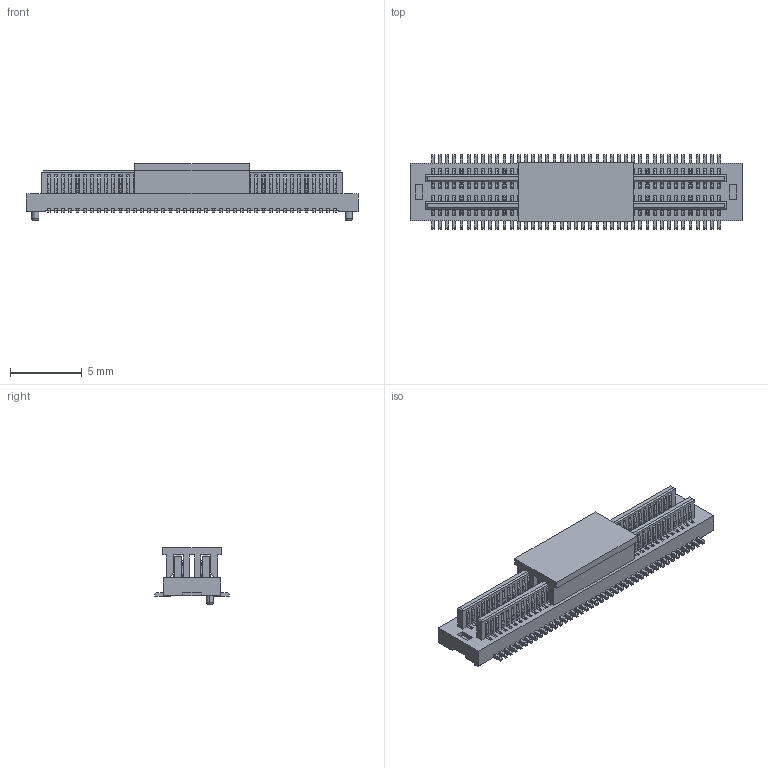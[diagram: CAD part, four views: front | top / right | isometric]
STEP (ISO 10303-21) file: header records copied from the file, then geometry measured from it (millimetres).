
FILE_DESCRIPTION(('CATIA V5 STEP Exchange'),'2;1');
FILE_NAME('F:\黄富鸿\板对板\PBB05\公座\H1.3\编带+盖\HC-PBB05-2-82-M-H1.3-G1-R-P-04（BTB0.5 双槽 公座 立贴 带柱 编带+盖）-HCTL.stp','2025-12-17T01:44:53+00:00',('none'),('none'),'CATIA Version 5 Release 20 GA (IN-10)','CATIA V5 STEP AP203','none');
FILE_SCHEMA(('CONFIG_CONTROL_DESIGN'));
Products named in the file (1): Part2
Bounding box: 23.2 x 5.2 x 3.95 mm (x, y, z)
Volume: 183.4 mm3; surface area: 1490.9 mm2
Topology: 84 solids, 84 shells, 4672 faces, 14302 edges, 9476 vertices
Faces by surface type: plane 3024, cylinder 1644, torus 4
Entity records: 136803 total; most frequent: ORIENTED_EDGE 28604, CARTESIAN_POINT 25396, DIRECTION 15240, EDGE_CURVE 14302, VECTOR 10678, LINE 10678, VERTEX_POINT 9476, EDGE_LOOP 4678
